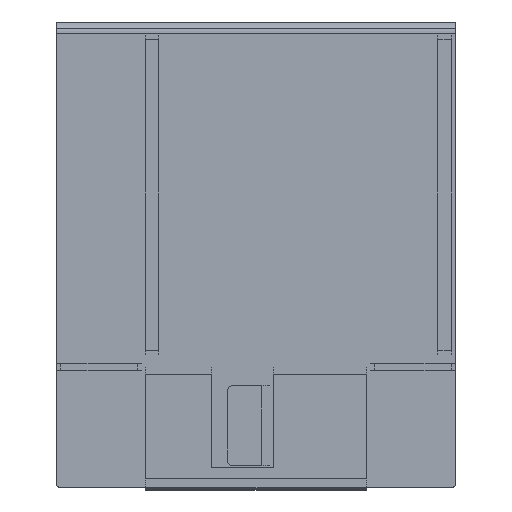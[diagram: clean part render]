
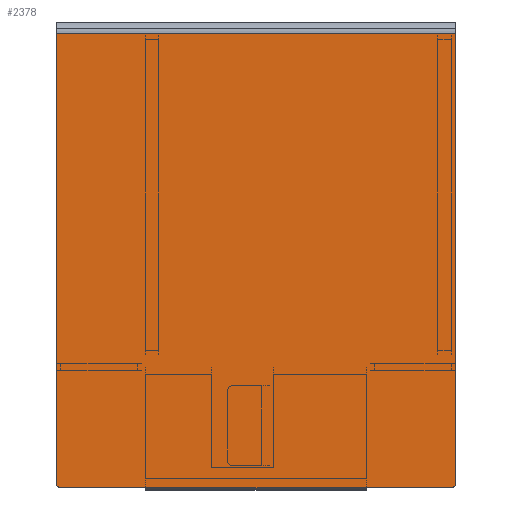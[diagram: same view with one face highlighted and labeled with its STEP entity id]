
A CAD part, left-side view. The second image highlights one B-rep face of the part: STEP entity #2378.
In plain terms, the highlighted planar face has unit normal (-1, 0, 0).
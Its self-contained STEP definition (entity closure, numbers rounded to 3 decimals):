
#38 = CARTESIAN_POINT ( 'NONE',  ( 0., 0., 0. ) ) ;
#52 = VERTEX_POINT ( 'NONE', #10013 ) ;
#461 = ORIENTED_EDGE ( 'NONE', *, *, #7858, .F. ) ;
#470 = VERTEX_POINT ( 'NONE', #4392 ) ;
#535 = CIRCLE ( 'NONE', #7946, 1. ) ;
#845 = LINE ( 'NONE', #6837, #2814 ) ;
#949 = EDGE_CURVE ( 'NONE', #1783, #470, #6615, .T. ) ;
#998 = DIRECTION ( 'NONE',  ( 0., -1., 0. ) ) ;
#1010 = ORIENTED_EDGE ( 'NONE', *, *, #7871, .T. ) ;
#1327 = PLANE ( 'NONE',  #10451 ) ;
#1472 = EDGE_LOOP ( 'NONE', ( #8145, #2222, #4897, #1010, #9246, #461 ) ) ;
#1783 = VERTEX_POINT ( 'NONE', #5305 ) ;
#2028 = CARTESIAN_POINT ( 'NONE',  ( 0., 89., -104. ) ) ;
#2163 = DIRECTION ( 'NONE',  ( 0., 0., -1. ) ) ;
#2222 = ORIENTED_EDGE ( 'NONE', *, *, #3040, .T. ) ;
#2378 = ADVANCED_FACE ( 'NONE', ( #2664 ), #1327, .F. ) ;
#2529 = DIRECTION ( 'NONE',  ( 0., 0., -1. ) ) ;
#2664 = FACE_OUTER_BOUND ( 'NONE', #1472, .T. ) ;
#2732 = CARTESIAN_POINT ( 'NONE',  ( 0., 1., -104. ) ) ;
#2767 = CARTESIAN_POINT ( 'NONE',  ( 0., 0., -104. ) ) ;
#2814 = VECTOR ( 'NONE', #998, 1000. ) ;
#2894 = DIRECTION ( 'NONE',  ( 0., 0., -1. ) ) ;
#3040 = EDGE_CURVE ( 'NONE', #52, #1783, #535, .T. ) ;
#3276 = CARTESIAN_POINT ( 'NONE',  ( 0., 0., -105. ) ) ;
#3550 = DIRECTION ( 'NONE',  ( 0., 0., -1. ) ) ;
#4103 = DIRECTION ( 'NONE',  ( 0., -1., 0. ) ) ;
#4309 = AXIS2_PLACEMENT_3D ( 'NONE', #2732, #8503, #3550 ) ;
#4392 = CARTESIAN_POINT ( 'NONE',  ( 0., 1., -105. ) ) ;
#4459 = VECTOR ( 'NONE', #7580, 1000. ) ;
#4897 = ORIENTED_EDGE ( 'NONE', *, *, #949, .T. ) ;
#4915 = CARTESIAN_POINT ( 'NONE',  ( 0., 0., -2.5 ) ) ;
#4992 = EDGE_CURVE ( 'NONE', #7933, #6900, #6689, .T. ) ;
#5305 = CARTESIAN_POINT ( 'NONE',  ( 0., 89., -105. ) ) ;
#5488 = CARTESIAN_POINT ( 'NONE',  ( 0., 0., 0. ) ) ;
#5965 = EDGE_CURVE ( 'NONE', #9425, #52, #7798, .T. ) ;
#6615 = LINE ( 'NONE', #3276, #10751 ) ;
#6689 = LINE ( 'NONE', #38, #4459 ) ;
#6837 = CARTESIAN_POINT ( 'NONE',  ( 0., 0., -2.5 ) ) ;
#6900 = VERTEX_POINT ( 'NONE', #4915 ) ;
#6970 = CIRCLE ( 'NONE', #4309, 1. ) ;
#7146 = DIRECTION ( 'NONE',  ( 1., 0., 0. ) ) ;
#7551 = VECTOR ( 'NONE', #2529, 1000. ) ;
#7580 = DIRECTION ( 'NONE',  ( 0., 0., 1. ) ) ;
#7798 = LINE ( 'NONE', #8320, #7551 ) ;
#7835 = DIRECTION ( 'NONE',  ( -1., 0., 0. ) ) ;
#7858 = EDGE_CURVE ( 'NONE', #9425, #6900, #845, .T. ) ;
#7871 = EDGE_CURVE ( 'NONE', #470, #7933, #6970, .T. ) ;
#7933 = VERTEX_POINT ( 'NONE', #2767 ) ;
#7946 = AXIS2_PLACEMENT_3D ( 'NONE', #2028, #7835, #2894 ) ;
#8145 = ORIENTED_EDGE ( 'NONE', *, *, #5965, .T. ) ;
#8216 = CARTESIAN_POINT ( 'NONE',  ( 0., 90., -2.5 ) ) ;
#8320 = CARTESIAN_POINT ( 'NONE',  ( 0., 90., 0. ) ) ;
#8503 = DIRECTION ( 'NONE',  ( -1., 0., 0. ) ) ;
#9246 = ORIENTED_EDGE ( 'NONE', *, *, #4992, .T. ) ;
#9425 = VERTEX_POINT ( 'NONE', #8216 ) ;
#10013 = CARTESIAN_POINT ( 'NONE',  ( 0., 90., -104. ) ) ;
#10451 = AXIS2_PLACEMENT_3D ( 'NONE', #5488, #7146, #2163 ) ;
#10751 = VECTOR ( 'NONE', #4103, 1000. ) ;
